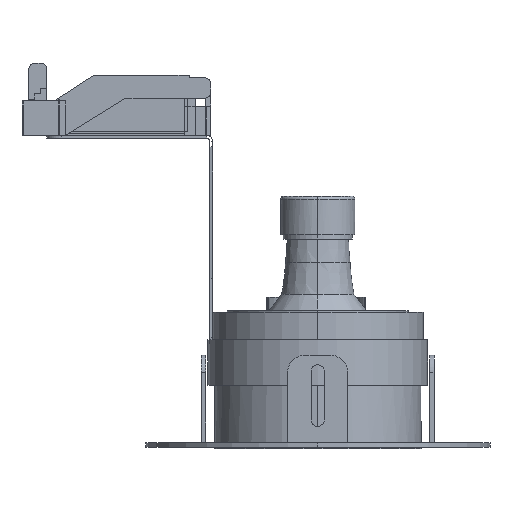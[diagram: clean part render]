
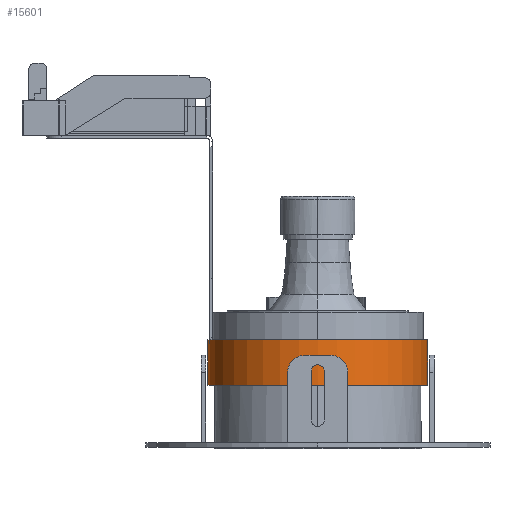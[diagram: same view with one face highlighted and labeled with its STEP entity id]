
A CAD part, left-side view. The second image highlights one B-rep face of the part: STEP entity #15601.
In plain terms, the highlighted cylindrical face has radius 38.25 mm (diameter 76.5 mm), a partial arc.
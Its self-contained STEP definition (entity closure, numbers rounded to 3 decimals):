
#687=CYLINDRICAL_SURFACE('',#16569,38.25);
#1685=FACE_OUTER_BOUND('',#2509,.T.);
#2509=EDGE_LOOP('',(#12322,#12323,#12324,#12325));
#4058=LINE('',#25708,#5260);
#4059=LINE('',#25709,#5261);
#5260=VECTOR('',#19510,304.8);
#5261=VECTOR('',#19511,304.8);
#6006=CIRCLE('',#16558,38.25);
#6011=CIRCLE('',#16567,38.25);
#7456=VERTEX_POINT('',#25680);
#7457=VERTEX_POINT('',#25681);
#7462=VERTEX_POINT('',#25700);
#7463=VERTEX_POINT('',#25702);
#9292=EDGE_CURVE('',#7457,#7456,#6006,.T.);
#9301=EDGE_CURVE('',#7462,#7463,#6011,.T.);
#9302=EDGE_CURVE('',#7456,#7462,#4058,.T.);
#9303=EDGE_CURVE('',#7463,#7457,#4059,.T.);
#12322=ORIENTED_EDGE('',*,*,#9301,.T.);
#12323=ORIENTED_EDGE('',*,*,#9303,.T.);
#12324=ORIENTED_EDGE('',*,*,#9292,.T.);
#12325=ORIENTED_EDGE('',*,*,#9302,.T.);
#15601=ADVANCED_FACE('',(#1685),#687,.T.);
#16558=AXIS2_PLACEMENT_3D('',#25689,#19484,#19485);
#16567=AXIS2_PLACEMENT_3D('',#25706,#19506,#19507);
#16569=AXIS2_PLACEMENT_3D('',#25710,#19512,#19513);
#19484=DIRECTION('center_axis',(0.,0.,1.));
#19485=DIRECTION('ref_axis',(0.,1.,0.));
#19506=DIRECTION('center_axis',(0.,0.,-1.));
#19507=DIRECTION('ref_axis',(0.,1.,0.));
#19510=DIRECTION('',(0.,0.,1.));
#19511=DIRECTION('',(0.,0.,-1.));
#19512=DIRECTION('center_axis',(0.,0.,1.));
#19513=DIRECTION('ref_axis',(0.,1.,0.));
#25680=CARTESIAN_POINT('',(0.,-38.25,22.));
#25681=CARTESIAN_POINT('',(0.,38.25,22.));
#25689=CARTESIAN_POINT('Origin',(0.,0.,22.));
#25700=CARTESIAN_POINT('',(0.,-38.25,38.));
#25702=CARTESIAN_POINT('',(0.,38.25,38.));
#25706=CARTESIAN_POINT('Origin',(0.,0.,38.));
#25708=CARTESIAN_POINT('',(0.,-38.25,22.));
#25709=CARTESIAN_POINT('',(0.,38.25,38.));
#25710=CARTESIAN_POINT('Origin',(0.,0.,1792.792));
